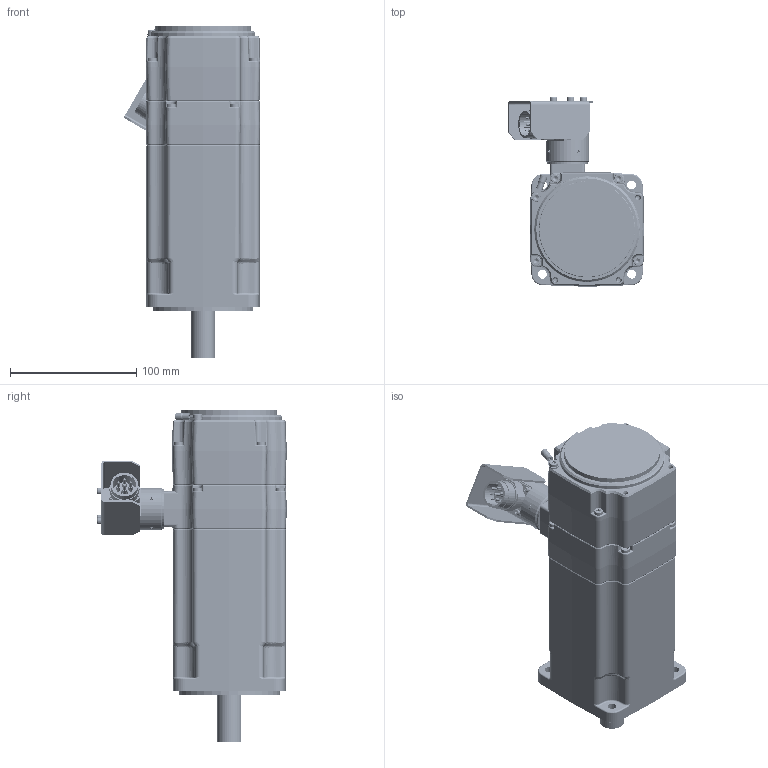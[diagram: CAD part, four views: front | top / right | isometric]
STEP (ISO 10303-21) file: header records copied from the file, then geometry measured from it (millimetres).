
FILE_DESCRIPTION((''),'2;1');
FILE_NAME('EY430EYR7010_ASM','2017-09-29T',('pf73167'),(''),'PRO/ENGINEER BY PARAMETRIC TECHNOLOGY CORPORATION, 2009400','PRO/ENGINEER BY PARAMETRIC TECHNOLOGY CORPORATION, 2009400','');
FILE_SCHEMA(('CONFIG_CONTROL_DESIGN'));
Length unit declared in the file: millimetre
Products named in the file (41): 344176P0027; 5116P1308; 1613P0123; 344174P0002; 344171P0002; 344212P0002; 344171P0002_ASM; 220087P0012; 344175R0002_ASM; 5116P1315; 1711P0005; 1645P0017; 344170P0002; 344225R3000; 344561P0001; 344570P0002_ENROULE; 344228R3000_ASM; 344172P0010; 344173R3008_ASM; 5340P0069; 5320P0033; 1143P0415; 344180P0019; 1642P0104; 6620P0012; 1143P0408; 345359P0002; 5340P0124; 5340P0125; 1150P0204; 345359P0001; 1170P0042; 220132P1010_0001; 220132P1010_0002; 220132P0111; 220132P0120; 220132P1010_ASM; 345359P0003; 1150P0305; 345359R1010_ASM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
Assembly tree (103 placements, depth 4):
  EY430EYR7010_ASM
    344176P0027
    5116P1308
    1613P0123
    344175R0002_ASM
      344174P0002
      344171P0002_ASM
        344171P0002
        344212P0002  x2
      220087P0012  x30
    5116P1315
    1711P0005
    1645P0017  x2
    344173R3008_ASM
      344228R3000_ASM
        344170P0002
        344225R3000  x6
        344561P0001  x2
        344570P0002_ENROULE  x2
      344172P0010
    5340P0069  x2
    5320P0033
    1143P0415  x8
    344180P0019
    1642P0104
    6620P0012
    1143P0408
    345359R1010_ASM
      345359P0002
      5340P0124
      5340P0125
      1150P0204  x8
      345359P0001
      1170P0042  x4
      220132P1010_ASM
        220132P1010_0001
        220132P1010_0002
        220132P0111  x4
        220132P0120  x3
      345359P0003
      1150P0305  x3
Bounding box: 108.48 x 150.2 x 263.2 mm (x, y, z)
Volume: 1094234 mm3; surface area: 479350.8 mm2
Topology: 101 solids, 120 shells, 6019 faces, 14487 edges, 8808 vertices
Faces by surface type: cylinder 2118, plane 1894, bspline 919, cone 621, torus 419, sphere 28, extrusion 20
Entity records: 139159 total; most frequent: CARTESIAN_POINT 48707, ORIENTED_EDGE 18870, DIRECTION 18623, EDGE_CURVE 9435, AXIS2_PLACEMENT_3D 7014, VERTEX_POINT 5872, VECTOR 4595, LINE 4575
